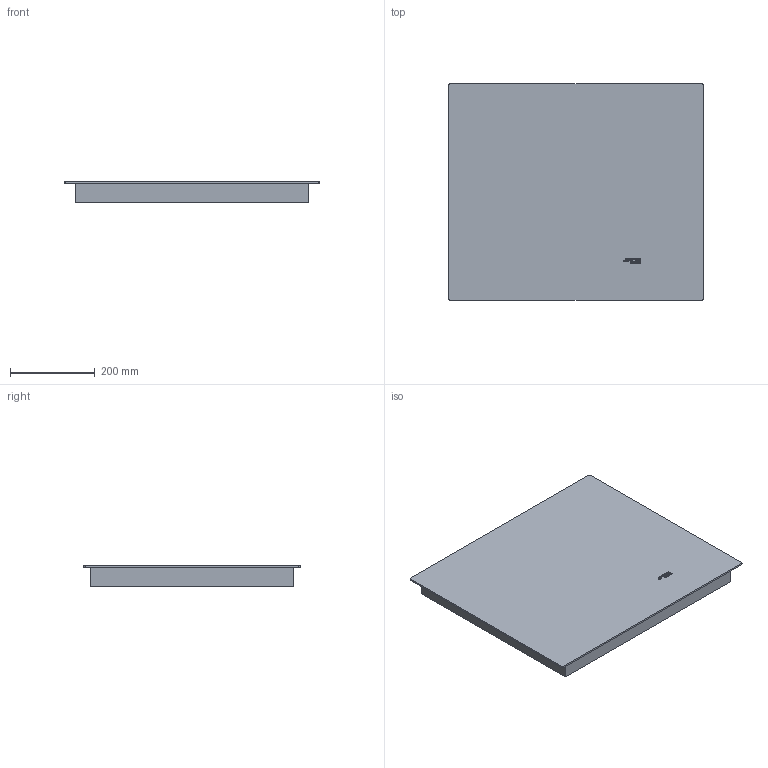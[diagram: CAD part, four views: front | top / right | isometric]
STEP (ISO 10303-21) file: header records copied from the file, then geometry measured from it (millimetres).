
FILE_DESCRIPTION(('CATIA V5 STEP'),'2;1');
FILE_NAME('Q:\Work\LeyhBjo\Picture Models\180206_Eftimie\949492320\949492320_SI5632D.stp','2018-03-26T06:38:40+00:00',('none'),('Electrolux'),'CATIA Version 5-6 Release 2014 SP5','CATIA V5 STEP AP203','none');
FILE_SCHEMA(('CONFIG_CONTROL_DESIGN'));
Length unit declared in the file: millimetre
Products named in the file (2): M0239640; M0047564
Assembly tree (3 placements, depth 3):
  M0239640
    M0047564
      #65
    #9080
Bounding box: 600 x 510 x 49.6 mm (x, y, z)
Volume: 13101076.5 mm3; surface area: 1241662.7 mm2
Topology: 2 solids, 2 shells, 283 faces, 776 edges, 516 vertices
Faces by surface type: extrusion 151, plane 124, cylinder 4, revolution 4
Entity records: 9563 total; most frequent: CARTESIAN_POINT 3131, ORIENTED_EDGE 1544, DIRECTION 772, EDGE_CURVE 772, VECTOR 595, VERTEX_POINT 514, B_SPLINE_CURVE_WITH_KNOTS 470, LINE 444
